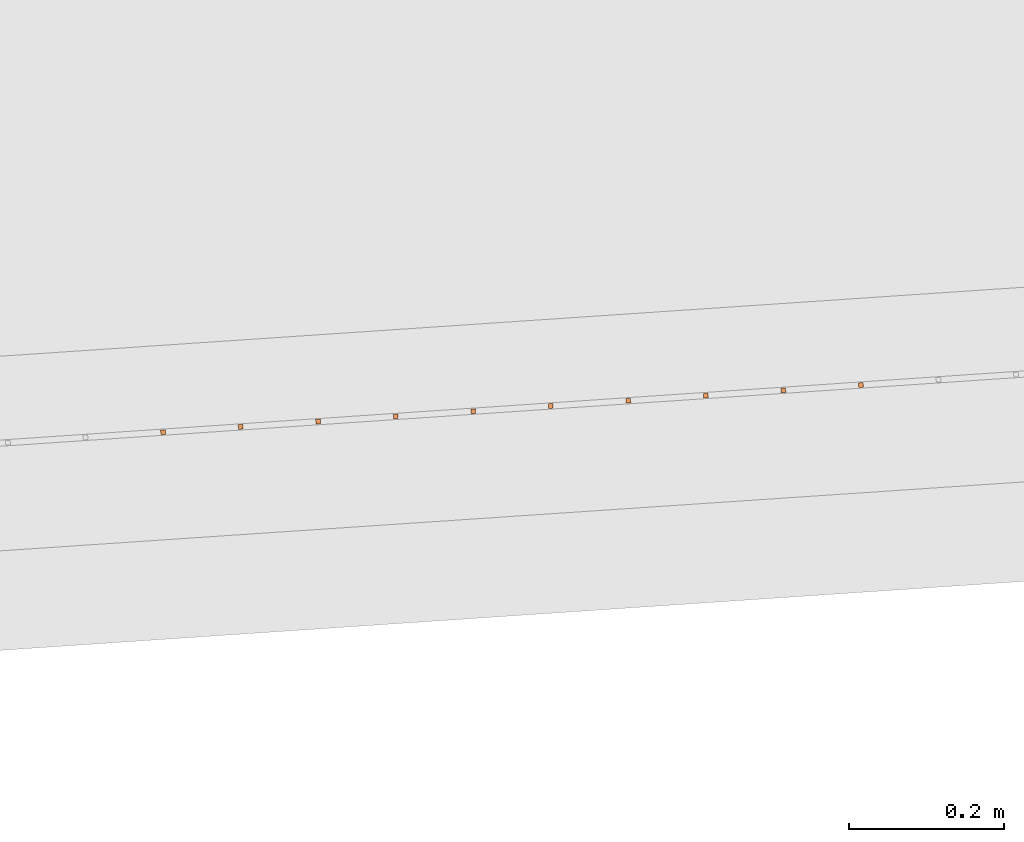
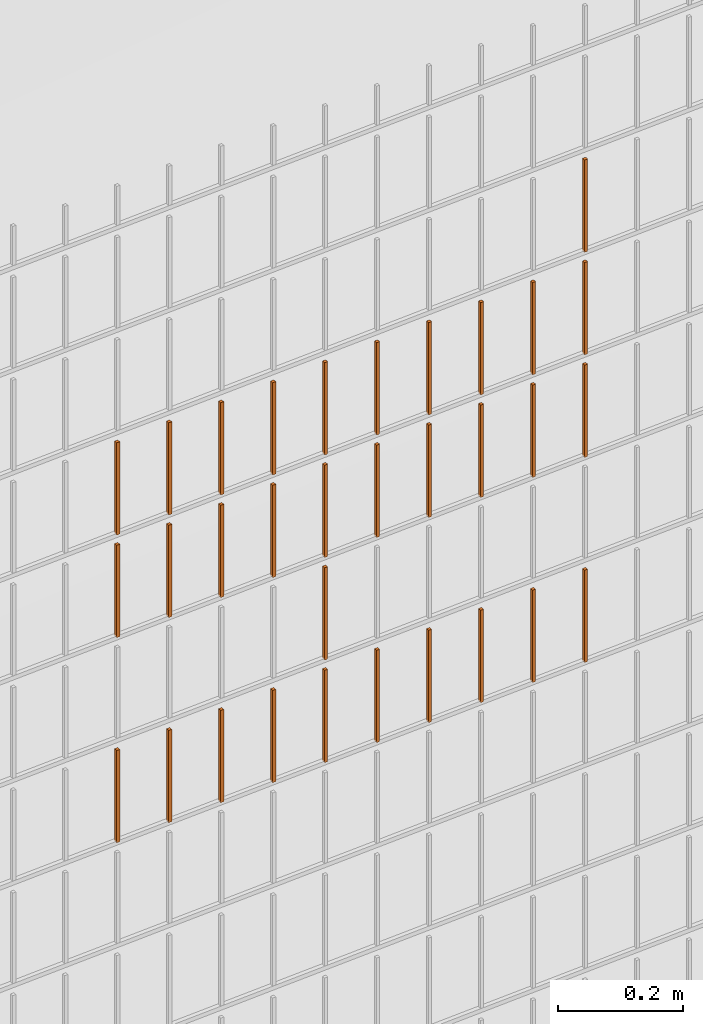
# One storey, part 185 of 1809: 32 proxies, 1 element without a shape of its own.
"""IFC2X3 building model written with IfcOpenShell, lengths in millimetres."""

from ifc_helpers import new_model, entity, si_unit, converted_unit, derived_unit, money_unit, direction, frame, origin_with_axes, place, context, subcontext, project, spatial, faceted_brep, source, transform, mapped, material, type_object, element, aggregate, save


model = new_model("IFC2X3")

# Units and contexts
model_context = context("Model", 3, precision=0.01, world=origin_with_axes(), true_north=direction((0.0, 1.0)))
body_context = subcontext(model_context, "Body", "Model", "MODEL_VIEW")
ifc_project = project(units=[si_unit("LENGTHUNIT", "METRE", prefix="MILLI"), si_unit("AREAUNIT", "SQUARE_METRE"), si_unit("VOLUMEUNIT", "CUBIC_METRE"), converted_unit("PLANEANGLEUNIT", "DEGREE", entity("IfcPlaneAngleMeasure", 0.0174532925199), si_unit("PLANEANGLEUNIT", "RADIAN"), dimensions=[0, 0, 0, 0, 0, 0, 0]), si_unit("SOLIDANGLEUNIT", "STERADIAN"), money_unit("EUR"), converted_unit("TIMEUNIT", "Year", entity("IfcTimeMeasure", 31556926.0), si_unit("TIMEUNIT", "SECOND"), dimensions=[0, 0, 1, 0, 0, 0, 0]), si_unit("MASSUNIT", "GRAM", prefix="KILO"), si_unit("THERMODYNAMICTEMPERATUREUNIT", "DEGREE_CELSIUS"), si_unit("LUMINOUSINTENSITYUNIT", "LUMEN"), si_unit("ENERGYUNIT", "JOULE", prefix="MEGA"), derived_unit("THERMALCONDUCTANCEUNIT", [(si_unit("POWERUNIT", "WATT"), 1), (si_unit("LENGTHUNIT", "METRE"), -1), (si_unit("THERMODYNAMICTEMPERATUREUNIT", "KELVIN"), -1)]), derived_unit("SPECIFICHEATCAPACITYUNIT", [(si_unit("ENERGYUNIT", "JOULE"), 1), (si_unit("MASSUNIT", "GRAM", prefix="KILO"), -1), (si_unit("THERMODYNAMICTEMPERATUREUNIT", "KELVIN"), -1)]), derived_unit("MASSDENSITYUNIT", [(si_unit("MASSUNIT", "GRAM", prefix="KILO"), 1), (si_unit("VOLUMEUNIT", "CUBIC_METRE"), -1)])], contexts=[model_context])

# Site, building, storey
site_placement = place(None, origin_with_axes())
site = spatial("IfcSite", under=ifc_project, at=site_placement, Name="Politse- ja Piirivalveameti ning Päästeameti ühishoone", CompositionType="ELEMENT")
building_placement = place(site_placement, origin_with_axes())
building = spatial("IfcBuilding", under=site, at=building_placement, Name="Politse- ja Piirivalveameti ning Päästeameti ühishoone", CompositionType="ELEMENT")
storey_placement = place(building_placement, origin_with_axes())
storey = spatial("IfcBuildingStorey", under=building, at=storey_placement, Name="Esimene korrus", CompositionType="ELEMENT", Elevation=0.0)

# Proxies
building_element_proxy_type_1 = type_object("IfcBuildingElementProxyType", Name="Railing Type", PredefinedType="NOTDEFINED")
proxy_1_placement = place(storey_placement, frame((89252.001212, -29183.4766571, 203.661247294), z_axis=(0.0, 0.0, 1.0), x_axis=(1.0, 0.0, 0.0)))
proxy_1 = element("IfcBuildingElementProxy", 1, at=proxy_1_placement, inside=storey, type_object=building_element_proxy_type_1, Name="PIIRDEAED")
ifc_material = material(Name="ET-03_Raud")
building_element_proxy_type_2 = type_object("IfcBuildingElementProxyType", Name="IfcBuildingElementProxy", PredefinedType="NOTDEFINED")
shared_shape_1 = source(origin_with_axes(), body_context, "Body", "Brep", [
    faceted_brep([(3.0, 3.0, -0.000752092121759), (-3.0, 3.0, -0.000752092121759), (-3.0, 3.0, 179.99926046), (3.0, 3.0, 179.99926046), (3.0, -3.0, 0.000752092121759), (-3.0, -3.0, 0.000752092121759), (-3.0, -3.0, 180.000764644), (3.0, -3.0, 180.000764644)], [[[0, 1, 2, 3]], [[0, 4, 5, 1]], [[1, 5, 6, 2]], [[3, 2, 6, 7]], [[4, 0, 3, 7]], [[5, 4, 7, 6]]]),
])
proxy_2_placement = place(proxy_1_placement, frame((-71064.7562478, -22097.9308574, 809.378041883), z_axis=(0.0, 0.0, 1.0), x_axis=(1.0, 0.0, 0.0)))
proxy_2 = element("IfcBuildingElementProxy", 2, at=proxy_2_placement, type_object=building_element_proxy_type_2, material=ifc_material, Name="BALUSTER - 001", context=body_context, shape_type="MappedRepresentation", body=[
    mapped(shared_shape_1, transform((0.0, 0.0, 0.0), x_axis=(-0.0673926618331, 0.997726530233, 0.0), y_axis=(-0.997726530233, -0.0673926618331, 0.0), z_axis=(0.0, 0.0, 1.0))),
])
proxy_3_placement = place(proxy_1_placement, frame((-71164.5289008, -22104.6701236, 809.352972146), z_axis=(0.0, 0.0, 1.0), x_axis=(1.0, 0.0, 0.0)))
proxy_3 = element("IfcBuildingElementProxy", 3, at=proxy_3_placement, type_object=building_element_proxy_type_2, material=ifc_material, Name="BALUSTER - 001", context=body_context, shape_type="MappedRepresentation", body=[
    mapped(shared_shape_1, transform((0.0, 0.0, 0.0), x_axis=(-0.0673926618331, 0.997726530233, 0.0), y_axis=(-0.997726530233, -0.0673926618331, 0.0), z_axis=(0.0, 0.0, 1.0))),
])
shared_shape_2 = source(origin_with_axes(), body_context, "Body", "Brep", [
    faceted_brep([(3.0, 3.0, -0.000752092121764), (-3.0, 3.0, -0.000752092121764), (-3.0, 3.0, 179.99926046), (3.0, 3.0, 179.99926046), (3.0, -3.0, 0.000752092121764), (-3.0, -3.0, 0.000752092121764), (-3.0, -3.0, 180.000764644), (3.0, -3.0, 180.000764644)], [[[0, 1, 2, 3]], [[0, 4, 5, 1]], [[1, 5, 6, 2]], [[3, 2, 6, 7]], [[4, 0, 3, 7]], [[5, 4, 7, 6]]]),
])
proxy_4_placement = place(proxy_1_placement, frame((-70266.5750236, -22044.016728, 809.578599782), z_axis=(0.0, 0.0, 1.0), x_axis=(1.0, 0.0, 0.0)))
proxy_4 = element("IfcBuildingElementProxy", 4, at=proxy_4_placement, type_object=building_element_proxy_type_2, material=ifc_material, Name="BALUSTER - 001", context=body_context, shape_type="MappedRepresentation", body=[
    mapped(shared_shape_2, transform((0.0, 0.0, 0.0), x_axis=(-0.0673926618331, 0.997726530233, 0.0), y_axis=(-0.997726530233, -0.0673926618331, 0.0), z_axis=(0.0, 0.0, 1.0))),
])
proxy_5_placement = place(proxy_1_placement, frame((-70665.6656357, -22070.9737927, 1209.47832083), z_axis=(0.0, 0.0, 1.0), x_axis=(1.0, 0.0, 0.0)))
proxy_5 = element("IfcBuildingElementProxy", 5, at=proxy_5_placement, type_object=building_element_proxy_type_2, material=ifc_material, Name="BALUSTER - 001", context=body_context, shape_type="MappedRepresentation", body=[
    mapped(shared_shape_2, transform((0.0, 0.0, 0.0), x_axis=(-0.0673926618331, 0.997726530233, 0.0), y_axis=(-0.997726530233, -0.0673926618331, 0.0), z_axis=(0.0, 0.0, 1.0))),
])
shared_shape_3 = source(origin_with_axes(), body_context, "Body", "Brep", [
    faceted_brep([(3.0, 3.0, -0.000752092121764), (-3.0, 3.0, -0.000752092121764), (-3.0, 3.0, 179.99926046), (3.0, 3.0, 179.99926046), (3.0, -3.0, 0.000752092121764), (-3.0, -3.0, 0.000752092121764), (-3.0, -3.0, 180.000764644), (3.0, -3.0, 180.000764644)], [[[0, 1, 2, 3]], [[0, 4, 5, 1]], [[1, 5, 6, 2]], [[3, 2, 6, 7]], [[4, 0, 3, 7]], [[5, 4, 7, 6]]]),
])
proxy_6_placement = place(proxy_1_placement, frame((-70765.4382887, -22077.7130589, 809.453251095), z_axis=(0.0, 0.0, 1.0), x_axis=(1.0, 0.0, 0.0)))
proxy_6 = element("IfcBuildingElementProxy", 6, at=proxy_6_placement, type_object=building_element_proxy_type_2, material=ifc_material, Name="BALUSTER - 001", context=body_context, shape_type="MappedRepresentation", body=[
    mapped(shared_shape_3, transform((0.0, 0.0, 0.0), x_axis=(-0.0673926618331, 0.997726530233, 0.0), y_axis=(-0.997726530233, -0.0673926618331, 0.0), z_axis=(0.0, 0.0, 1.0))),
])
shared_shape_4 = source(origin_with_axes(), body_context, "Body", "Brep", [
    faceted_brep([(3.0, 3.0, -0.000752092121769), (-3.0, 3.0, -0.000752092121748), (-3.0, 3.0, 179.99926046), (3.0, 3.0, 179.99926046), (3.0, -3.0, 0.000752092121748), (-3.0, -3.0, 0.000752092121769), (-3.0, -3.0, 180.000764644), (3.0, -3.0, 180.000764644)], [[[0, 1, 2, 3]], [[0, 4, 5, 1]], [[1, 5, 6, 2]], [[3, 2, 6, 7]], [[4, 0, 3, 7]], [[5, 4, 7, 6]]]),
])
proxy_7_placement = place(proxy_1_placement, frame((-70665.6656357, -22070.9737927, 809.478320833), z_axis=(0.0, 0.0, 1.0), x_axis=(1.0, 0.0, 0.0)))
proxy_7 = element("IfcBuildingElementProxy", 7, at=proxy_7_placement, type_object=building_element_proxy_type_2, material=ifc_material, Name="BALUSTER - 001", context=body_context, shape_type="MappedRepresentation", body=[
    mapped(shared_shape_4, transform((0.0, 0.0, 0.0), x_axis=(-0.0673926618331, 0.997726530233, 0.0), y_axis=(-0.997726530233, -0.0673926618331, 0.0), z_axis=(0.0, 0.0, 1.0))),
])
shared_shape_5 = source(origin_with_axes(), body_context, "Body", "Brep", [
    faceted_brep([(3.0, 3.0, -0.000752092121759), (-3.0, 3.0, -0.000752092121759), (-3.0, 3.0, 179.99926046), (3.0, 3.0, 179.99926046), (3.0, -3.0, 0.000752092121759), (-3.0, -3.0, 0.000752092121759), (-3.0, -3.0, 180.000764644), (3.0, -3.0, 180.000764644)], [[[0, 1, 2, 3]], [[0, 4, 5, 1]], [[1, 5, 6, 2]], [[3, 2, 6, 7]], [[4, 0, 3, 7]], [[5, 4, 7, 6]]]),
])
proxy_8_placement = place(proxy_1_placement, frame((-70964.9835948, -22091.1915912, 1209.40311162), z_axis=(0.0, 0.0, 1.0), x_axis=(1.0, 0.0, 0.0)))
proxy_8 = element("IfcBuildingElementProxy", 8, at=proxy_8_placement, type_object=building_element_proxy_type_2, material=ifc_material, Name="BALUSTER - 001", context=body_context, shape_type="MappedRepresentation", body=[
    mapped(shared_shape_5, transform((0.0, 0.0, 0.0), x_axis=(-0.0673926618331, 0.997726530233, 0.0), y_axis=(-0.997726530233, -0.0673926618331, 0.0), z_axis=(0.0, 0.0, 1.0))),
])
shared_shape_6 = source(origin_with_axes(), body_context, "Body", "Brep", [
    faceted_brep([(3.0, 3.0, -0.000752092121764), (-3.0, 3.0, -0.000752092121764), (-3.0, 3.0, 179.99926046), (3.0, 3.0, 179.99926046), (3.0, -3.0, 0.000752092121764), (-3.0, -3.0, 0.000752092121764), (-3.0, -3.0, 180.000764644), (3.0, -3.0, 180.000764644)], [[[0, 1, 2, 3]], [[0, 4, 5, 1]], [[1, 5, 6, 2]], [[3, 2, 6, 7]], [[4, 0, 3, 7]], [[5, 4, 7, 6]]]),
])
proxy_9_placement = place(proxy_1_placement, frame((-70266.5750236, -22044.016728, 1209.57859978), z_axis=(0.0, 0.0, 1.0), x_axis=(1.0, 0.0, 0.0)))
proxy_9 = element("IfcBuildingElementProxy", 9, at=proxy_9_placement, type_object=building_element_proxy_type_2, material=ifc_material, Name="BALUSTER - 001", context=body_context, shape_type="MappedRepresentation", body=[
    mapped(shared_shape_6, transform((0.0, 0.0, 0.0), x_axis=(-0.0673926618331, 0.997726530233, 0.0), y_axis=(-0.997726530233, -0.0673926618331, 0.0), z_axis=(0.0, 0.0, 1.0))),
])
shared_shape_7 = source(origin_with_axes(), body_context, "Body", "Brep", [
    faceted_brep([(3.0, 3.0, -0.000752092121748), (-3.0, 3.0, -0.00075209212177), (-3.0, 3.0, 179.99926046), (3.0, 3.0, 179.99926046), (3.0, -3.0, 0.00075209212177), (-3.0, -3.0, 0.000752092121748), (-3.0, -3.0, 180.000764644), (3.0, -3.0, 180.000764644)], [[[0, 1, 2, 3]], [[0, 4, 5, 1]], [[1, 5, 6, 2]], [[3, 2, 6, 7]], [[4, 0, 3, 7]], [[5, 4, 7, 6]]]),
])
proxy_10_placement = place(proxy_1_placement, frame((-70366.3476766, -22050.7559941, 809.553530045), z_axis=(0.0, 0.0, 1.0), x_axis=(1.0, 0.0, 0.0)))
proxy_10 = element("IfcBuildingElementProxy", 10, at=proxy_10_placement, type_object=building_element_proxy_type_2, material=ifc_material, Name="BALUSTER - 001", context=body_context, shape_type="MappedRepresentation", body=[
    mapped(shared_shape_7, transform((0.0, 0.0, 0.0), x_axis=(-0.0673926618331, 0.997726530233, 0.0), y_axis=(-0.997726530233, -0.0673926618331, 0.0), z_axis=(0.0, 0.0, 1.0))),
])
shared_shape_8 = source(origin_with_axes(), body_context, "Body", "Brep", [
    faceted_brep([(3.0, 3.0, -0.000752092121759), (-3.0, 3.0, -0.000752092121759), (-3.0, 3.0, 179.99926046), (3.0, 3.0, 179.99926046), (3.0, -3.0, 0.000752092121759), (-3.0, -3.0, 0.000752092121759), (-3.0, -3.0, 180.000764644), (3.0, -3.0, 180.000764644)], [[[0, 1, 2, 3]], [[0, 4, 5, 1]], [[1, 5, 6, 2]], [[3, 2, 6, 7]], [[4, 0, 3, 7]], [[5, 4, 7, 6]]]),
])
proxy_11_placement = place(proxy_1_placement, frame((-70865.2109417, -22084.4523251, 809.428181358), z_axis=(0.0, 0.0, 1.0), x_axis=(1.0, 0.0, 0.0)))
proxy_11 = element("IfcBuildingElementProxy", 11, at=proxy_11_placement, type_object=building_element_proxy_type_2, material=ifc_material, Name="BALUSTER - 001", context=body_context, shape_type="MappedRepresentation", body=[
    mapped(shared_shape_8, transform((0.0, 0.0, 0.0), x_axis=(-0.0673926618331, 0.997726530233, 0.0), y_axis=(-0.997726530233, -0.0673926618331, 0.0), z_axis=(0.0, 0.0, 1.0))),
])
shared_shape_9 = source(origin_with_axes(), body_context, "Body", "Brep", [
    faceted_brep([(3.0, 3.0, -0.000752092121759), (-3.0, 3.0, -0.000752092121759), (-3.0, 3.0, 179.99926046), (3.0, 3.0, 179.99926046), (3.0, -3.0, 0.000752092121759), (-3.0, -3.0, 0.000752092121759), (-3.0, -3.0, 180.000764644), (3.0, -3.0, 180.000764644)], [[[0, 1, 2, 3]], [[0, 4, 5, 1]], [[1, 5, 6, 2]], [[3, 2, 6, 7]], [[4, 0, 3, 7]], [[5, 4, 7, 6]]]),
])
proxy_12_placement = place(proxy_1_placement, frame((-70565.8929827, -22064.2345265, 1209.50339057), z_axis=(0.0, 0.0, 1.0), x_axis=(1.0, 0.0, 0.0)))
proxy_12 = element("IfcBuildingElementProxy", 12, at=proxy_12_placement, type_object=building_element_proxy_type_2, material=ifc_material, Name="BALUSTER - 001", context=body_context, shape_type="MappedRepresentation", body=[
    mapped(shared_shape_9, transform((0.0, 0.0, 0.0), x_axis=(-0.0673926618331, 0.997726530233, 0.0), y_axis=(-0.997726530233, -0.0673926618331, 0.0), z_axis=(0.0, 0.0, 1.0))),
])
shared_shape_10 = source(origin_with_axes(), body_context, "Body", "Brep", [
    faceted_brep([(3.0, 3.0, -0.000752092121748), (-3.0, 3.0, -0.00075209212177), (-3.0, 3.0, 179.99926046), (3.0, 3.0, 179.99926046), (3.0, -3.0, 0.00075209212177), (-3.0, -3.0, 0.000752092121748), (-3.0, -3.0, 180.000764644), (3.0, -3.0, 180.000764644)], [[[0, 1, 2, 3]], [[0, 4, 5, 1]], [[1, 5, 6, 2]], [[3, 2, 6, 7]], [[4, 0, 3, 7]], [[5, 4, 7, 6]]]),
])
proxy_13_placement = place(proxy_1_placement, frame((-70565.8929827, -22064.2345265, 809.50339057), z_axis=(0.0, 0.0, 1.0), x_axis=(1.0, 0.0, 0.0)))
proxy_13 = element("IfcBuildingElementProxy", 13, at=proxy_13_placement, type_object=building_element_proxy_type_2, material=ifc_material, Name="BALUSTER - 001", context=body_context, shape_type="MappedRepresentation", body=[
    mapped(shared_shape_10, transform((0.0, 0.0, 0.0), x_axis=(-0.0673926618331, 0.997726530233, 0.0), y_axis=(-0.997726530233, -0.0673926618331, 0.0), z_axis=(0.0, 0.0, 1.0))),
])
shared_shape_11 = source(origin_with_axes(), body_context, "Body", "Brep", [
    faceted_brep([(3.0, 3.0, -0.000752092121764), (-3.0, 3.0, -0.000752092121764), (-3.0, 3.0, 179.99926046), (3.0, 3.0, 179.99926046), (3.0, -3.0, 0.000752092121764), (-3.0, -3.0, 0.000752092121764), (-3.0, -3.0, 180.000764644), (3.0, -3.0, 180.000764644)], [[[0, 1, 2, 3]], [[0, 4, 5, 1]], [[1, 5, 6, 2]], [[3, 2, 6, 7]], [[4, 0, 3, 7]], [[5, 4, 7, 6]]]),
])
proxy_14_placement = place(proxy_1_placement, frame((-70266.5750236, -22044.016728, 1409.57859978), z_axis=(0.0, 0.0, 1.0), x_axis=(1.0, 0.0, 0.0)))
proxy_14 = element("IfcBuildingElementProxy", 14, at=proxy_14_placement, type_object=building_element_proxy_type_2, material=ifc_material, Name="BALUSTER - 001", context=body_context, shape_type="MappedRepresentation", body=[
    mapped(shared_shape_11, transform((0.0, 0.0, 0.0), x_axis=(-0.0673926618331, 0.997726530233, 0.0), y_axis=(-0.997726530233, -0.0673926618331, 0.0), z_axis=(0.0, 0.0, 1.0))),
])
proxy_15_placement = place(proxy_1_placement, frame((-70266.5750236, -22044.016728, 1609.57859978), z_axis=(0.0, 0.0, 1.0), x_axis=(1.0, 0.0, 0.0)))
proxy_15 = element("IfcBuildingElementProxy", 15, at=proxy_15_placement, type_object=building_element_proxy_type_2, material=ifc_material, Name="BALUSTER - 001", context=body_context, shape_type="MappedRepresentation", body=[
    mapped(shared_shape_11, transform((0.0, 0.0, 0.0), x_axis=(-0.0673926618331, 0.997726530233, 0.0), y_axis=(-0.997726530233, -0.0673926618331, 0.0), z_axis=(0.0, 0.0, 1.0))),
])
shared_shape_12 = source(origin_with_axes(), body_context, "Body", "Brep", [
    faceted_brep([(3.0, 3.0, -0.000752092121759), (-3.0, 3.0, -0.000752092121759), (-3.0, 3.0, 179.99926046), (3.0, 3.0, 179.99926046), (3.0, -3.0, 0.000752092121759), (-3.0, -3.0, 0.000752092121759), (-3.0, -3.0, 180.000764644), (3.0, -3.0, 180.000764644)], [[[0, 1, 2, 3]], [[0, 4, 5, 1]], [[1, 5, 6, 2]], [[3, 2, 6, 7]], [[4, 0, 3, 7]], [[5, 4, 7, 6]]]),
])
proxy_16_placement = place(proxy_1_placement, frame((-70565.8929827, -22064.2345265, 1409.50339057), z_axis=(0.0, 0.0, 1.0), x_axis=(1.0, 0.0, 0.0)))
proxy_16 = element("IfcBuildingElementProxy", 16, at=proxy_16_placement, type_object=building_element_proxy_type_2, material=ifc_material, Name="BALUSTER - 001", context=body_context, shape_type="MappedRepresentation", body=[
    mapped(shared_shape_12, transform((0.0, 0.0, 0.0), x_axis=(-0.0673926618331, 0.997726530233, 0.0), y_axis=(-0.997726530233, -0.0673926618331, 0.0), z_axis=(0.0, 0.0, 1.0))),
])
shared_shape_13 = source(origin_with_axes(), body_context, "Body", "Brep", [
    faceted_brep([(3.0, 3.0, -0.000752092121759), (-3.0, 3.0, -0.000752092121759), (-3.0, 3.0, 179.99926046), (3.0, 3.0, 179.99926046), (3.0, -3.0, 0.000752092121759), (-3.0, -3.0, 0.000752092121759), (-3.0, -3.0, 180.000764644), (3.0, -3.0, 180.000764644)], [[[0, 1, 2, 3]], [[0, 4, 5, 1]], [[1, 5, 6, 2]], [[3, 2, 6, 7]], [[4, 0, 3, 7]], [[5, 4, 7, 6]]]),
])
proxy_17_placement = place(proxy_1_placement, frame((-70865.2109417, -22084.4523251, 1209.42818136), z_axis=(0.0, 0.0, 1.0), x_axis=(1.0, 0.0, 0.0)))
proxy_17 = element("IfcBuildingElementProxy", 17, at=proxy_17_placement, type_object=building_element_proxy_type_2, material=ifc_material, Name="BALUSTER - 001", context=body_context, shape_type="MappedRepresentation", body=[
    mapped(shared_shape_13, transform((0.0, 0.0, 0.0), x_axis=(-0.0673926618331, 0.997726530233, 0.0), y_axis=(-0.997726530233, -0.0673926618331, 0.0), z_axis=(0.0, 0.0, 1.0))),
])
shared_shape_14 = source(origin_with_axes(), body_context, "Body", "Brep", [
    faceted_brep([(3.0, 3.0, -0.000752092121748), (-3.0, 3.0, -0.00075209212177), (-3.0, 3.0, 179.99926046), (3.0, 3.0, 179.99926046), (3.0, -3.0, 0.00075209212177), (-3.0, -3.0, 0.000752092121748), (-3.0, -3.0, 180.000764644), (3.0, -3.0, 180.000764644)], [[[0, 1, 2, 3]], [[0, 4, 5, 1]], [[1, 5, 6, 2]], [[3, 2, 6, 7]], [[4, 0, 3, 7]], [[5, 4, 7, 6]]]),
])
proxy_18_placement = place(proxy_1_placement, frame((-71164.5289008, -22104.6701236, 1209.35297215), z_axis=(0.0, 0.0, 1.0), x_axis=(1.0, 0.0, 0.0)))
proxy_18 = element("IfcBuildingElementProxy", 18, at=proxy_18_placement, type_object=building_element_proxy_type_2, material=ifc_material, Name="BALUSTER - 001", context=body_context, shape_type="MappedRepresentation", body=[
    mapped(shared_shape_14, transform((0.0, 0.0, 0.0), x_axis=(-0.0673926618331, 0.997726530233, 0.0), y_axis=(-0.997726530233, -0.0673926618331, 0.0), z_axis=(0.0, 0.0, 1.0))),
])
shared_shape_15 = source(origin_with_axes(), body_context, "Body", "Brep", [
    faceted_brep([(3.0, 3.0, -0.000752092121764), (-3.0, 3.0, -0.000752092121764), (-3.0, 3.0, 179.99926046), (3.0, 3.0, 179.99926046), (3.0, -3.0, 0.000752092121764), (-3.0, -3.0, 0.000752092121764), (-3.0, -3.0, 180.000764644), (3.0, -3.0, 180.000764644)], [[[0, 1, 2, 3]], [[0, 4, 5, 1]], [[1, 5, 6, 2]], [[3, 2, 6, 7]], [[4, 0, 3, 7]], [[5, 4, 7, 6]]]),
])
proxy_19_placement = place(proxy_1_placement, frame((-70366.3476766, -22050.7559941, 1209.55353004), z_axis=(0.0, 0.0, 1.0), x_axis=(1.0, 0.0, 0.0)))
proxy_19 = element("IfcBuildingElementProxy", 19, at=proxy_19_placement, type_object=building_element_proxy_type_2, material=ifc_material, Name="BALUSTER - 001", context=body_context, shape_type="MappedRepresentation", body=[
    mapped(shared_shape_15, transform((0.0, 0.0, 0.0), x_axis=(-0.0673926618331, 0.997726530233, 0.0), y_axis=(-0.997726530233, -0.0673926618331, 0.0), z_axis=(0.0, 0.0, 1.0))),
])
shared_shape_16 = source(origin_with_axes(), body_context, "Body", "Brep", [
    faceted_brep([(3.0, 3.0, -0.000752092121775), (-3.0, 3.0, -0.000752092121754), (-3.0, 3.0, 179.99926046), (3.0, 3.0, 179.99926046), (3.0, -3.0, 0.000752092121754), (-3.0, -3.0, 0.000752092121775), (-3.0, -3.0, 180.000764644), (3.0, -3.0, 180.000764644)], [[[0, 1, 2, 3]], [[0, 4, 5, 1]], [[1, 5, 6, 2]], [[3, 2, 6, 7]], [[4, 0, 3, 7]], [[5, 4, 7, 6]]]),
])
proxy_20_placement = place(proxy_1_placement, frame((-70765.4382887, -22077.7130589, 1209.4532511), z_axis=(0.0, 0.0, 1.0), x_axis=(1.0, 0.0, 0.0)))
proxy_20 = element("IfcBuildingElementProxy", 20, at=proxy_20_placement, type_object=building_element_proxy_type_2, material=ifc_material, Name="BALUSTER - 001", context=body_context, shape_type="MappedRepresentation", body=[
    mapped(shared_shape_16, transform((0.0, 0.0, 0.0), x_axis=(-0.0673926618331, 0.997726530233, 0.0), y_axis=(-0.997726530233, -0.0673926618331, 0.0), z_axis=(0.0, 0.0, 1.0))),
])
shared_shape_17 = source(origin_with_axes(), body_context, "Body", "Brep", [
    faceted_brep([(3.0, 3.0, -0.000752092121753), (-3.0, 3.0, -0.000752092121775), (-3.0, 3.0, 179.99926046), (3.0, 3.0, 179.99926046), (3.0, -3.0, 0.000752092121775), (-3.0, -3.0, 0.000752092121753), (-3.0, -3.0, 180.000764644), (3.0, -3.0, 180.000764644)], [[[0, 1, 2, 3]], [[0, 4, 5, 1]], [[1, 5, 6, 2]], [[3, 2, 6, 7]], [[4, 0, 3, 7]], [[5, 4, 7, 6]]]),
])
proxy_21_placement = place(proxy_1_placement, frame((-70466.1203296, -22057.4952603, 809.528460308), z_axis=(0.0, 0.0, 1.0), x_axis=(1.0, 0.0, 0.0)))
proxy_21 = element("IfcBuildingElementProxy", 21, at=proxy_21_placement, type_object=building_element_proxy_type_2, material=ifc_material, Name="BALUSTER - 001", context=body_context, shape_type="MappedRepresentation", body=[
    mapped(shared_shape_17, transform((0.0, 0.0, 0.0), x_axis=(-0.0673926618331, 0.997726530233, 0.0), y_axis=(-0.997726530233, -0.0673926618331, 0.0), z_axis=(0.0, 0.0, 1.0))),
])
shared_shape_18 = source(origin_with_axes(), body_context, "Body", "Brep", [
    faceted_brep([(3.0, 3.0, -0.000752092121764), (-3.0, 3.0, -0.000752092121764), (-3.0, 3.0, 179.99926046), (3.0, 3.0, 179.99926046), (3.0, -3.0, 0.000752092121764), (-3.0, -3.0, 0.000752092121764), (-3.0, -3.0, 180.000764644), (3.0, -3.0, 180.000764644)], [[[0, 1, 2, 3]], [[0, 4, 5, 1]], [[1, 5, 6, 2]], [[3, 2, 6, 7]], [[4, 0, 3, 7]], [[5, 4, 7, 6]]]),
])
proxy_22_placement = place(proxy_1_placement, frame((-70466.1203296, -22057.4952603, 1209.52846031), z_axis=(0.0, 0.0, 1.0), x_axis=(1.0, 0.0, 0.0)))
proxy_22 = element("IfcBuildingElementProxy", 22, at=proxy_22_placement, type_object=building_element_proxy_type_2, material=ifc_material, Name="BALUSTER - 001", context=body_context, shape_type="MappedRepresentation", body=[
    mapped(shared_shape_18, transform((0.0, 0.0, 0.0), x_axis=(-0.0673926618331, 0.997726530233, 0.0), y_axis=(-0.997726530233, -0.0673926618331, 0.0), z_axis=(0.0, 0.0, 1.0))),
])
shared_shape_19 = source(origin_with_axes(), body_context, "Body", "Brep", [
    faceted_brep([(3.0, 3.0, -0.000752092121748), (-3.0, 3.0, -0.00075209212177), (-3.0, 3.0, 179.99926046), (3.0, 3.0, 179.99926046), (3.0, -3.0, 0.00075209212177), (-3.0, -3.0, 0.000752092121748), (-3.0, -3.0, 180.000764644), (3.0, -3.0, 180.000764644)], [[[0, 1, 2, 3]], [[0, 4, 5, 1]], [[1, 5, 6, 2]], [[3, 2, 6, 7]], [[4, 0, 3, 7]], [[5, 4, 7, 6]]]),
])
proxy_23_placement = place(proxy_1_placement, frame((-71164.5289008, -22104.6701236, 1409.35297215), z_axis=(0.0, 0.0, 1.0), x_axis=(1.0, 0.0, 0.0)))
proxy_23 = element("IfcBuildingElementProxy", 23, at=proxy_23_placement, type_object=building_element_proxy_type_2, material=ifc_material, Name="BALUSTER - 001", context=body_context, shape_type="MappedRepresentation", body=[
    mapped(shared_shape_19, transform((0.0, 0.0, 0.0), x_axis=(-0.0673926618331, 0.997726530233, 0.0), y_axis=(-0.997726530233, -0.0673926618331, 0.0), z_axis=(0.0, 0.0, 1.0))),
])
shared_shape_20 = source(origin_with_axes(), body_context, "Body", "Brep", [
    faceted_brep([(3.0, 3.0, -0.000752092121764), (-3.0, 3.0, -0.000752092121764), (-3.0, 3.0, 179.99926046), (3.0, 3.0, 179.99926046), (3.0, -3.0, 0.000752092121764), (-3.0, -3.0, 0.000752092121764), (-3.0, -3.0, 180.000764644), (3.0, -3.0, 180.000764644)], [[[0, 1, 2, 3]], [[0, 4, 5, 1]], [[1, 5, 6, 2]], [[3, 2, 6, 7]], [[4, 0, 3, 7]], [[5, 4, 7, 6]]]),
])
proxy_24_placement = place(proxy_1_placement, frame((-70366.3476766, -22050.7559941, 1409.55353004), z_axis=(0.0, 0.0, 1.0), x_axis=(1.0, 0.0, 0.0)))
proxy_24 = element("IfcBuildingElementProxy", 24, at=proxy_24_placement, type_object=building_element_proxy_type_2, material=ifc_material, Name="BALUSTER - 001", context=body_context, shape_type="MappedRepresentation", body=[
    mapped(shared_shape_20, transform((0.0, 0.0, 0.0), x_axis=(-0.0673926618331, 0.997726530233, 0.0), y_axis=(-0.997726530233, -0.0673926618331, 0.0), z_axis=(0.0, 0.0, 1.0))),
])
shared_shape_21 = source(origin_with_axes(), body_context, "Body", "Brep", [
    faceted_brep([(3.0, 3.0, -0.000752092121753), (-3.0, 3.0, -0.000752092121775), (-3.0, 3.0, 179.99926046), (3.0, 3.0, 179.99926046), (3.0, -3.0, 0.000752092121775), (-3.0, -3.0, 0.000752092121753), (-3.0, -3.0, 180.000764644), (3.0, -3.0, 180.000764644)], [[[0, 1, 2, 3]], [[0, 4, 5, 1]], [[1, 5, 6, 2]], [[3, 2, 6, 7]], [[4, 0, 3, 7]], [[5, 4, 7, 6]]]),
])
proxy_25_placement = place(proxy_1_placement, frame((-71064.7562478, -22097.9308574, 1209.37804188), z_axis=(0.0, 0.0, 1.0), x_axis=(1.0, 0.0, 0.0)))
proxy_25 = element("IfcBuildingElementProxy", 25, at=proxy_25_placement, type_object=building_element_proxy_type_2, material=ifc_material, Name="BALUSTER - 001", context=body_context, shape_type="MappedRepresentation", body=[
    mapped(shared_shape_21, transform((0.0, 0.0, 0.0), x_axis=(-0.0673926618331, 0.997726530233, 0.0), y_axis=(-0.997726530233, -0.0673926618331, 0.0), z_axis=(0.0, 0.0, 1.0))),
])
shared_shape_22 = source(origin_with_axes(), body_context, "Body", "Brep", [
    faceted_brep([(3.0, 3.0, -0.000752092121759), (-3.0, 3.0, -0.000752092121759), (-3.0, 3.0, 179.99926046), (3.0, 3.0, 179.99926046), (3.0, -3.0, 0.000752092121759), (-3.0, -3.0, 0.000752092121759), (-3.0, -3.0, 180.000764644), (3.0, -3.0, 180.000764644)], [[[0, 1, 2, 3]], [[0, 4, 5, 1]], [[1, 5, 6, 2]], [[3, 2, 6, 7]], [[4, 0, 3, 7]], [[5, 4, 7, 6]]]),
])
proxy_26_placement = place(proxy_1_placement, frame((-70865.2109417, -22084.4523251, 1409.42818136), z_axis=(0.0, 0.0, 1.0), x_axis=(1.0, 0.0, 0.0)))
proxy_26 = element("IfcBuildingElementProxy", 26, at=proxy_26_placement, type_object=building_element_proxy_type_2, material=ifc_material, Name="BALUSTER - 001", context=body_context, shape_type="MappedRepresentation", body=[
    mapped(shared_shape_22, transform((0.0, 0.0, 0.0), x_axis=(-0.0673926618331, 0.997726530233, 0.0), y_axis=(-0.997726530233, -0.0673926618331, 0.0), z_axis=(0.0, 0.0, 1.0))),
])
shared_shape_23 = source(origin_with_axes(), body_context, "Body", "Brep", [
    faceted_brep([(3.0, 3.0, -0.000752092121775), (-3.0, 3.0, -0.000752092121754), (-3.0, 3.0, 179.99926046), (3.0, 3.0, 179.99926046), (3.0, -3.0, 0.000752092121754), (-3.0, -3.0, 0.000752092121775), (-3.0, -3.0, 180.000764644), (3.0, -3.0, 180.000764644)], [[[0, 1, 2, 3]], [[0, 4, 5, 1]], [[1, 5, 6, 2]], [[3, 2, 6, 7]], [[4, 0, 3, 7]], [[5, 4, 7, 6]]]),
])
proxy_27_placement = place(proxy_1_placement, frame((-70765.4382887, -22077.7130589, 1409.4532511), z_axis=(0.0, 0.0, 1.0), x_axis=(1.0, 0.0, 0.0)))
proxy_27 = element("IfcBuildingElementProxy", 27, at=proxy_27_placement, type_object=building_element_proxy_type_2, material=ifc_material, Name="BALUSTER - 001", context=body_context, shape_type="MappedRepresentation", body=[
    mapped(shared_shape_23, transform((0.0, 0.0, 0.0), x_axis=(-0.0673926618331, 0.997726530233, 0.0), y_axis=(-0.997726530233, -0.0673926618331, 0.0), z_axis=(0.0, 0.0, 1.0))),
])
shared_shape_24 = source(origin_with_axes(), body_context, "Body", "Brep", [
    faceted_brep([(3.0, 3.0, -0.000752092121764), (-3.0, 3.0, -0.000752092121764), (-3.0, 3.0, 179.99926046), (3.0, 3.0, 179.99926046), (3.0, -3.0, 0.000752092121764), (-3.0, -3.0, 0.000752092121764), (-3.0, -3.0, 180.000764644), (3.0, -3.0, 180.000764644)], [[[0, 1, 2, 3]], [[0, 4, 5, 1]], [[1, 5, 6, 2]], [[3, 2, 6, 7]], [[4, 0, 3, 7]], [[5, 4, 7, 6]]]),
])
proxy_28_placement = place(proxy_1_placement, frame((-70665.6656357, -22070.9737927, 1409.47832083), z_axis=(0.0, 0.0, 1.0), x_axis=(1.0, 0.0, 0.0)))
proxy_28 = element("IfcBuildingElementProxy", 28, at=proxy_28_placement, type_object=building_element_proxy_type_2, material=ifc_material, Name="BALUSTER - 001", context=body_context, shape_type="MappedRepresentation", body=[
    mapped(shared_shape_24, transform((0.0, 0.0, 0.0), x_axis=(-0.0673926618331, 0.997726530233, 0.0), y_axis=(-0.997726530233, -0.0673926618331, 0.0), z_axis=(0.0, 0.0, 1.0))),
])
shared_shape_25 = source(origin_with_axes(), body_context, "Body", "Brep", [
    faceted_brep([(3.0, 3.0, -0.000752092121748), (-3.0, 3.0, -0.00075209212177), (-3.0, 3.0, 179.99926046), (3.0, 3.0, 179.99926046), (3.0, -3.0, 0.00075209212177), (-3.0, -3.0, 0.000752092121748), (-3.0, -3.0, 180.000764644), (3.0, -3.0, 180.000764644)], [[[0, 1, 2, 3]], [[0, 4, 5, 1]], [[1, 5, 6, 2]], [[3, 2, 6, 7]], [[4, 0, 3, 7]], [[5, 4, 7, 6]]]),
])
proxy_29_placement = place(proxy_1_placement, frame((-70964.9835948, -22091.1915912, 809.403111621), z_axis=(0.0, 0.0, 1.0), x_axis=(1.0, 0.0, 0.0)))
proxy_29 = element("IfcBuildingElementProxy", 29, at=proxy_29_placement, type_object=building_element_proxy_type_2, material=ifc_material, Name="BALUSTER - 001", context=body_context, shape_type="MappedRepresentation", body=[
    mapped(shared_shape_25, transform((0.0, 0.0, 0.0), x_axis=(-0.0673926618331, 0.997726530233, 0.0), y_axis=(-0.997726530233, -0.0673926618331, 0.0), z_axis=(0.0, 0.0, 1.0))),
])
shared_shape_26 = source(origin_with_axes(), body_context, "Body", "Brep", [
    faceted_brep([(3.0, 3.0, -0.000752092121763), (-3.0, 3.0, -0.000752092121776), (-3.00000000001, 3.00000000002, 179.99926046), (2.99999999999, 3.00000000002, 179.99926046), (3.0, -3.0, 0.000752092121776), (-3.0, -3.0, 0.000752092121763), (-3.00000000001, -2.99999999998, 180.000764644), (2.99999999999, -2.99999999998, 180.000764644)], [[[0, 1, 2, 3]], [[0, 4, 5, 1]], [[1, 5, 6, 2]], [[3, 2, 6, 7]], [[4, 0, 3, 7]], [[5, 4, 7, 6]]]),
])
proxy_30_placement = place(proxy_1_placement, frame((-70765.4382887, -22077.7130589, 1009.4532511), z_axis=(0.0, 0.0, 1.0), x_axis=(1.0, 0.0, 0.0)))
proxy_30 = element("IfcBuildingElementProxy", 30, at=proxy_30_placement, type_object=building_element_proxy_type_2, material=ifc_material, Name="BALUSTER - 001", context=body_context, shape_type="MappedRepresentation", body=[
    mapped(shared_shape_26, transform((0.0, 0.0, 0.0), x_axis=(-0.0673926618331, 0.997726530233, 0.0), y_axis=(-0.997726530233, -0.0673926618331, 0.0), z_axis=(0.0, 0.0, 1.0))),
])
shared_shape_27 = source(origin_with_axes(), body_context, "Body", "Brep", [
    faceted_brep([(3.0, 3.0, -0.000752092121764), (-3.0, 3.0, -0.000752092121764), (-3.0, 3.0, 179.99926046), (3.0, 3.0, 179.99926046), (3.0, -3.0, 0.000752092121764), (-3.0, -3.0, 0.000752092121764), (-3.0, -3.0, 180.000764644), (3.0, -3.0, 180.000764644)], [[[0, 1, 2, 3]], [[0, 4, 5, 1]], [[1, 5, 6, 2]], [[3, 2, 6, 7]], [[4, 0, 3, 7]], [[5, 4, 7, 6]]]),
])
proxy_31_placement = place(proxy_1_placement, frame((-70466.1203296, -22057.4952603, 1409.52846031), z_axis=(0.0, 0.0, 1.0), x_axis=(1.0, 0.0, 0.0)))
proxy_31 = element("IfcBuildingElementProxy", 31, at=proxy_31_placement, type_object=building_element_proxy_type_2, material=ifc_material, Name="BALUSTER - 001", context=body_context, shape_type="MappedRepresentation", body=[
    mapped(shared_shape_27, transform((0.0, 0.0, 0.0), x_axis=(-0.0673926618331, 0.997726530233, 0.0), y_axis=(-0.997726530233, -0.0673926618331, 0.0), z_axis=(0.0, 0.0, 1.0))),
])
shared_shape_28 = source(origin_with_axes(), body_context, "Body", "Brep", [
    faceted_brep([(3.0, 3.0, -0.000752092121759), (-3.0, 3.0, -0.000752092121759), (-3.0, 3.0, 179.99926046), (3.0, 3.0, 179.99926046), (3.0, -3.0, 0.000752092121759), (-3.0, -3.0, 0.000752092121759), (-3.0, -3.0, 180.000764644), (3.0, -3.0, 180.000764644)], [[[0, 1, 2, 3]], [[0, 4, 5, 1]], [[1, 5, 6, 2]], [[3, 2, 6, 7]], [[4, 0, 3, 7]], [[5, 4, 7, 6]]]),
])
proxy_32_placement = place(proxy_1_placement, frame((-70964.9835948, -22091.1915912, 1409.40311162), z_axis=(0.0, 0.0, 1.0), x_axis=(1.0, 0.0, 0.0)))
proxy_32 = element("IfcBuildingElementProxy", 32, at=proxy_32_placement, type_object=building_element_proxy_type_2, material=ifc_material, Name="BALUSTER - 001", context=body_context, shape_type="MappedRepresentation", body=[
    mapped(shared_shape_28, transform((0.0, 0.0, 0.0), x_axis=(-0.0673926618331, 0.997726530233, 0.0), y_axis=(-0.997726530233, -0.0673926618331, 0.0), z_axis=(0.0, 0.0, 1.0))),
])
shared_shape_29 = source(origin_with_axes(), body_context, "Body", "Brep", [
    faceted_brep([(3.0, 3.0, -0.000752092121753), (-3.0, 3.0, -0.000752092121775), (-3.0, 3.0, 179.99926046), (3.0, 3.0, 179.99926046), (3.0, -3.0, 0.000752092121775), (-3.0, -3.0, 0.000752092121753), (-3.0, -3.0, 180.000764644), (3.0, -3.0, 180.000764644)], [[[0, 1, 2, 3]], [[0, 4, 5, 1]], [[1, 5, 6, 2]], [[3, 2, 6, 7]], [[4, 0, 3, 7]], [[5, 4, 7, 6]]]),
])
proxy_33_placement = place(proxy_1_placement, frame((-71064.7562478, -22097.9308574, 1409.37804188), z_axis=(0.0, 0.0, 1.0), x_axis=(1.0, 0.0, 0.0)))
proxy_33 = element("IfcBuildingElementProxy", 33, at=proxy_33_placement, type_object=building_element_proxy_type_2, material=ifc_material, Name="BALUSTER - 001", context=body_context, shape_type="MappedRepresentation", body=[
    mapped(shared_shape_29, transform((0.0, 0.0, 0.0), x_axis=(-0.0673926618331, 0.997726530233, 0.0), y_axis=(-0.997726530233, -0.0673926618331, 0.0), z_axis=(0.0, 0.0, 1.0))),
])
aggregate(proxy_1, [proxy_4, proxy_10, proxy_21, proxy_13, proxy_7, proxy_6, proxy_11, proxy_29, proxy_2, proxy_3, proxy_30, proxy_9, proxy_19, proxy_22, proxy_12, proxy_5, proxy_20, proxy_17, proxy_8, proxy_25, proxy_18, proxy_14, proxy_24, proxy_31, proxy_16, proxy_28, proxy_27, proxy_26, proxy_32, proxy_33, proxy_23, proxy_15])

save(model, "model.ifc")
